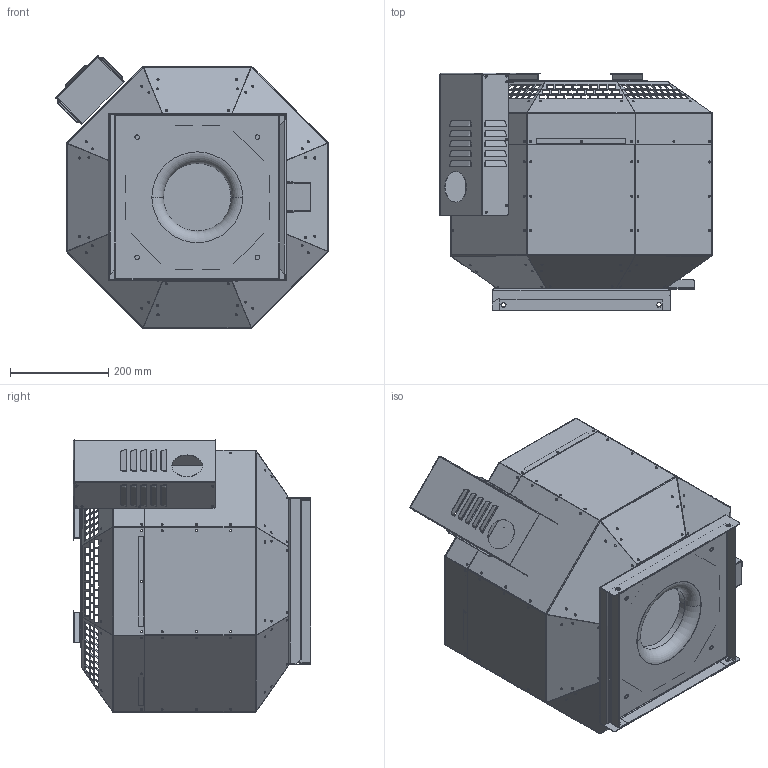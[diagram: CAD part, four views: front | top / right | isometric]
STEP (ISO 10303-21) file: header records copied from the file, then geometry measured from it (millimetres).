
FILE_DESCRIPTION (( 'STEP AP203' ), '1' );
FILE_NAME ('144615-00_DVNI225D2F430_step.step', '2018-07-31T12:15:25', ( '' ), ( '' ), 'SwSTEP 2.0', 'SolidWorks 2017', '' );
FILE_SCHEMA (( 'CONFIG_CONTROL_DESIGN' ));
Length unit declared in the file: millimetre
Products named in the file (2): 144615-00_DVNI225D2F430_step
Bounding box: 555.78 x 484.25 x 555.78 mm (x, y, z)
Surface area: 2496927.4 mm2 (no closed solid volume)
Topology: 0 solids, 39 shells, 1416 faces, 6154 edges, 4471 vertices
Faces by surface type: plane 990, cylinder 328, bspline 96, torus 2
Entity records: 81925 total; most frequent: CARTESIAN_POINT 31399, DIRECTION 9489, ORIENTED_EDGE 9349, EDGE_CURVE 6154, VERTEX_POINT 4471, LINE 4417, VECTOR 4417, AXIS2_PLACEMENT_3D 2536
